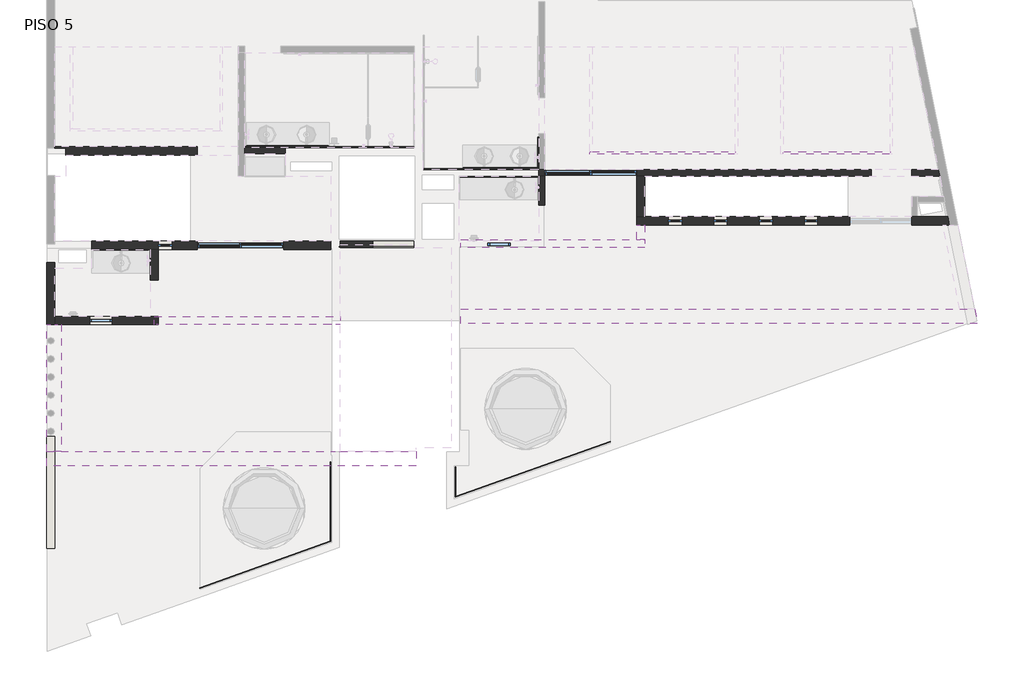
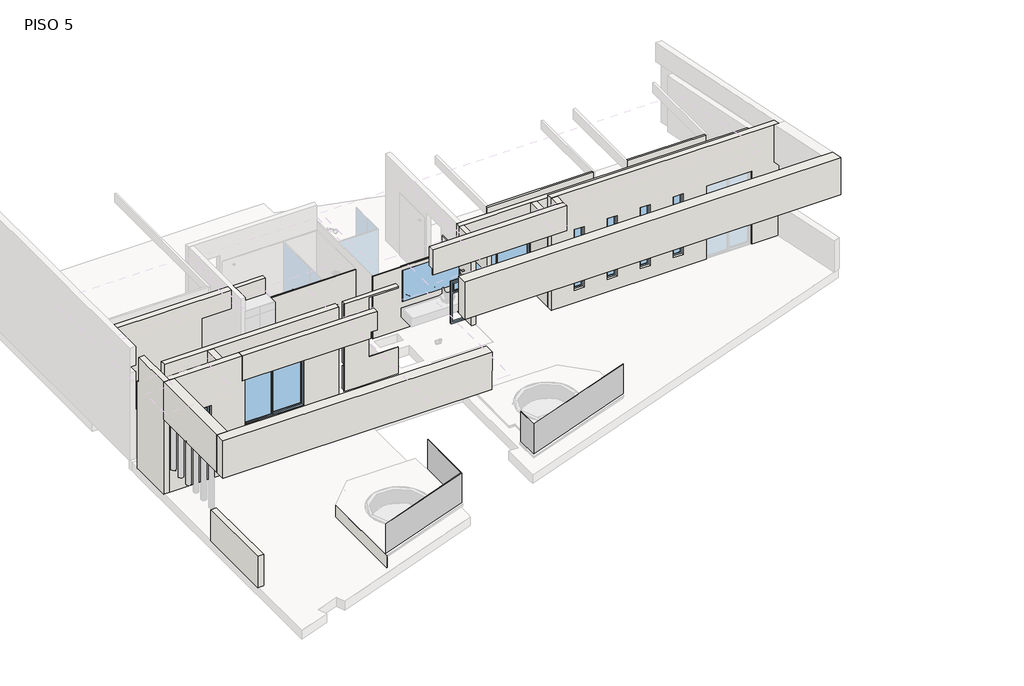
# One storey, part 1 of 3: 26 walls, 13 windows, 4 plates.
"""IFC4 building model written with IfcOpenShell, lengths in millimetres."""

import ifcopenshell
import ifcopenshell.guid

model = None  # the IFC model being written
_history = None  # IfcOwnerHistory: only IFC2X3 demands one
_inside = {}  # id of a spatial element -> (the spatial element, [elements in it])
_under = {}  # id of a project, library or spatial element -> (it, [spatial elements below it])
_declared = {}  # id of a project -> (the project, [libraries it declares])
_typed = {}  # id of a type object -> (the type object, [elements of that type])
_made_of = {}  # id of a material, layer set ... -> (it, [elements and type objects made of it])


def new_model(schema):
    """Start an empty IFC model of exactly this schema.

    Asked for "IFC4X3", IfcOpenShell would pick the latest addendum, in which some entities
    have other attributes; the version numbers below select the first issue.
    IFC2X3 requires an IfcOwnerHistory on every rooted entity: one is made here for all.
    """
    global model, _history
    if schema == "IFC4X3":
        model = ifcopenshell.file(schema_version=(4, 3, 0, 0))
    else:
        model = ifcopenshell.file(schema=schema)
    _inside.clear()
    _under.clear()
    _declared.clear()
    _typed.clear()
    _made_of.clear()
    _history = None
    if model.schema == "IFC2X3":
        org = make("IfcOrganization", Name="unknown")
        user = make(
            "IfcPersonAndOrganization",
            ThePerson=make("IfcPerson", FamilyName="unknown"),
            TheOrganization=org,
        )
        app = make(
            "IfcApplication",
            ApplicationDeveloper=org,
            Version="unknown",
            ApplicationFullName="unknown",
            ApplicationIdentifier="unknown",
        )
        _history = make(
            "IfcOwnerHistory",
            OwningUser=user,
            OwningApplication=app,
            ChangeAction="ADDED",
            CreationDate=0,
        )
    return model


def make(cls, **values):
    """One entity of the class cls with the attributes given. An attribute that is None is left unset."""
    return model.create_entity(
        cls, **{name: value for name, value in values.items() if value is not None}
    )


def rooted(cls, **values):
    """An entity with a GlobalId (a new one), such as an element, a storey or a relation."""
    return make(cls, GlobalId=ifcopenshell.guid.new(), OwnerHistory=_history, **values)


def si_unit(unit_type, name, prefix=None):
    """IfcSIUnit, for example si_unit("LENGTHUNIT", "METRE", prefix="MILLI")."""
    return make("IfcSIUnit", UnitType=unit_type, Prefix=prefix, Name=name)


def assignment(units):
    """IfcUnitAssignment: the units of a project."""
    return None if units is None else make("IfcUnitAssignment", Units=units)


def point(xyz):
    """IfcCartesianPoint."""
    return None if xyz is None else make("IfcCartesianPoint", Coordinates=xyz)


def direction(xyz):
    """IfcDirection."""
    return None if xyz is None else make("IfcDirection", DirectionRatios=xyz)


def frame(location, z_axis=None, x_axis=None):
    """IfcAxis2Placement3D, a coordinate frame: its origin and axes. An axis left out is left unset."""
    return make(
        "IfcAxis2Placement3D",
        Location=point(location),
        Axis=direction(z_axis),
        RefDirection=direction(x_axis),
    )


def origin():
    """The frame at (0, 0, 0) with its axes left unset."""
    return frame((0.0, 0.0, 0.0))


def origin_with_axes():
    """The frame at (0, 0, 0) with the z axis (0, 0, 1) and the x axis (1, 0, 0) written out."""
    return frame((0.0, 0.0, 0.0), z_axis=(0.0, 0.0, 1.0), x_axis=(1.0, 0.0, 0.0))


def place(relative_to, where):
    """IfcLocalPlacement: puts the frame where relative to a parent placement (None: the world)."""
    return make(
        "IfcLocalPlacement", PlacementRelTo=relative_to, RelativePlacement=where
    )


def context(
    kind, dimensions, precision=None, world=None, true_north=None, identifier=None
):
    """IfcGeometricRepresentationContext, for example the 3D "Model" context."""
    return make(
        "IfcGeometricRepresentationContext",
        ContextIdentifier=identifier,
        ContextType=kind,
        CoordinateSpaceDimension=dimensions,
        Precision=precision,
        WorldCoordinateSystem=world,
        TrueNorth=true_north,
    )


def project(units=None, contexts=None):
    """IfcProject with its units and contexts."""
    return rooted(
        "IfcProject",
        Name="project",
        RepresentationContexts=contexts,
        UnitsInContext=assignment(units),
    )


def spatial(cls, under=None, at=None, **own):
    """A site, building, storey or space (cls), placed at a placement, below another one or the project."""
    s = rooted(cls, ObjectPlacement=at, **own)
    if under is not None:
        _under.setdefault(under.id(), (under, []))[1].append(s)
    return s


def polyline(points):
    """IfcPolyline through the points."""
    return make("IfcPolyline", Points=[point(p) for p in points])


def outline(outer, holes=None, kind="AREA"):
    """IfcArbitraryClosedProfileDef: a profile drawn as a closed curve; with holes, ...WithVoids."""
    if holes is None:
        return make("IfcArbitraryClosedProfileDef", ProfileType=kind, OuterCurve=outer)
    return make(
        "IfcArbitraryProfileDefWithVoids",
        ProfileType=kind,
        OuterCurve=outer,
        InnerCurves=holes,
    )


def extrude(swept, where, along, depth):
    """IfcExtrudedAreaSolid: the profile swept, set in the frame where, extruded along a direction by depth."""
    return make(
        "IfcExtrudedAreaSolid",
        SweptArea=swept,
        Position=where,
        ExtrudedDirection=direction(along),
        Depth=depth,
    )


def faces_of(points, faces, orient=None, outer=None):
    """IfcFace entities. A face is a list of loops; a loop is a list of indices into points, from 0.

    orient and outer hold one flag for each loop. By default every Orientation is true, the
    first loop of a face is its IfcFaceOuterBound and the others are IfcFaceBound.
    """
    made = []
    for i, loops in enumerate(faces):
        bounds = []
        for j, loop in enumerate(loops):
            is_outer = j == 0 if outer is None else outer[i][j]
            bounds.append(
                make(
                    "IfcFaceOuterBound" if is_outer else "IfcFaceBound",
                    Bound=make("IfcPolyLoop", Polygon=[points[k] for k in loop]),
                    Orientation=True if orient is None else orient[i][j],
                )
            )
        made.append(make("IfcFace", Bounds=bounds))
    return made


def faceted_brep(points, faces, orient=None, outer=None, voids=None):
    """IfcFacetedBrep: a solid bounded by flat faces; with voids (closed shells), ...WithVoids."""
    shared = [point(p) for p in points]
    hull = make("IfcClosedShell", CfsFaces=faces_of(shared, faces, orient, outer))
    if voids is None:
        return make("IfcFacetedBrep", Outer=hull)
    return make(
        "IfcFacetedBrepWithVoids",
        Outer=hull,
        Voids=[
            make(cls, CfsFaces=faces_of(shared, fs, o, b)) for cls, fs, o, b in voids
        ],
    )


def shape(context_of_items, identifier, shape_type, items):
    """IfcShapeRepresentation: the items that make up one representation, for example the "Body"."""
    return make(
        "IfcShapeRepresentation",
        ContextOfItems=context_of_items,
        RepresentationIdentifier=identifier,
        RepresentationType=shape_type,
        Items=items,
    )


def source(mapping_origin, context_of_items, identifier, shape_type, items):
    """IfcRepresentationMap: a shape defined once, which mapped items show again and again."""
    return make(
        "IfcRepresentationMap",
        MappingOrigin=mapping_origin,
        MappedRepresentation=shape(context_of_items, identifier, shape_type, items),
    )


def transform(
    local_origin,
    x_axis=None,
    y_axis=None,
    z_axis=None,
    scale=None,
    scale2=None,
    scale3=None,
    uniform=True,
):
    """IfcCartesianTransformationOperator3D, or its non-uniform kind. x_axis, y_axis, z_axis: its Axis1, 2, 3."""
    if uniform:
        return make(
            "IfcCartesianTransformationOperator3D",
            Axis1=direction(x_axis),
            Axis2=direction(y_axis),
            LocalOrigin=point(local_origin),
            Scale=scale,
            Axis3=direction(z_axis),
        )
    return make(
        "IfcCartesianTransformationOperator3DnonUniform",
        Axis1=direction(x_axis),
        Axis2=direction(y_axis),
        LocalOrigin=point(local_origin),
        Scale=scale,
        Axis3=direction(z_axis),
        Scale2=scale2,
        Scale3=scale3,
    )


def mapped(mapping_source, mapping_target):
    """IfcMappedItem: shows the shape of a source again, moved by a transform."""
    return make(
        "IfcMappedItem", MappingSource=mapping_source, MappingTarget=mapping_target
    )


def made_of(thing, what):
    """Note that an element or type object is made of a material, layer set ...; save() writes the relation."""
    if what is not None:
        _made_of.setdefault(what.id(), (what, []))[1].append(thing)
    return thing


def element(
    cls,
    number,
    at=None,
    inside=None,
    cuts=None,
    type_object=None,
    material=None,
    context=None,
    identifier="Body",
    shape_type=None,
    held_by="IfcProductDefinitionShape",
    body=None,
    shapes=None,
    **own,
):
    """One element of the class cls, such as IfcWall. Its Tag is "e" and its number.

    at: its placement. inside: the storey or other place that contains it. cuts: it is an
    opening in that element (IfcRelVoidsElement). A single representation is given by context,
    identifier, shape_type and body (its items); several are given by shapes. held_by: the class
    of the entity that holds the representations. save() writes the other relations.
    """
    e = rooted(cls, Tag="e%d" % number, ObjectPlacement=at, **own)
    if body is not None:
        shapes = [shape(context, identifier, shape_type, body)]
    if shapes is not None:
        e.Representation = make(held_by, Representations=shapes)
    if inside is not None:
        _inside.setdefault(inside.id(), (inside, []))[1].append(e)
    if cuts is not None:
        rooted(
            "IfcRelVoidsElement", RelatingBuildingElement=cuts, RelatedOpeningElement=e
        )
    if type_object is not None:
        _typed.setdefault(type_object.id(), (type_object, []))[1].append(e)
    return made_of(e, material)


def aggregate(whole, parts):
    """IfcRelAggregates: a whole, such as a stair, and the parts it consists of."""
    return rooted("IfcRelAggregates", RelatingObject=whole, RelatedObjects=parts)


def save(model, path):
    """Write the relations noted so far, then the file.

    IfcRelAggregates (storeys below a building ...), IfcRelContainedInSpatialStructure (elements
    in a storey), IfcRelDefinesByType, IfcRelAssociatesMaterial and IfcRelDeclares: one each for
    every whole, place, type object, material and project.
    """
    for whole, parts in _under.values():
        aggregate(whole, parts)
    for where, things in _inside.values():
        rooted(
            "IfcRelContainedInSpatialStructure",
            RelatedElements=things,
            RelatingStructure=where,
        )
    for kind, things in _typed.values():
        rooted("IfcRelDefinesByType", RelatedObjects=things, RelatingType=kind)
    for what, things in _made_of.values():
        rooted("IfcRelAssociatesMaterial", RelatedObjects=things, RelatingMaterial=what)
    for by, libraries in _declared.values():
        rooted("IfcRelDeclares", RelatingContext=by, RelatedDefinitions=libraries)
    model.write(path)


def panel_del_sistema_6213fee9(model_context):
    return source(origin(), model_context, "Body", "SweptSolid", [
        extrude(outline(polyline([(1534.0319614, -5.0), (-1534.0319614, -5.0), (-1534.0319614, 5.0), (1534.0319614, 5.0), (1534.0319614, -5.0)])), origin_with_axes(), (0.0, 0.0, 1.0), 950.0),
    ])


def panel_del_sistema_d6f74f74(model_context):
    return source(origin(), model_context, "Body", "SweptSolid", [
        extrude(outline(polyline([(879.5373628, -5.0), (-879.5373628, -5.0), (-879.5373628, 5.0), (879.5373628, 5.0), (879.5373628, -5.0)])), origin_with_axes(), (0.0, 0.0, 1.0), 950.0),
    ])


def panel_del_sistema_5ee2ac6d(model_context):
    return source(origin(), model_context, "Body", "SweptSolid", [
        extrude(outline(polyline([(330.0, -5.0), (-330.0, -5.0), (-330.0, 5.0), (330.0, 5.0), (330.0, -5.0)])), origin_with_axes(), (0.0, 0.0, 1.0), 950.0),
    ])


def panel_del_sistema_3edf12d6(model_context):
    return source(origin(), model_context, "Body", "SweptSolid", [
        extrude(outline(polyline([(1810.0226196, -5.0), (-1810.0226196, -5.0), (-1810.0226196, 5.0), (1810.0226196, 5.0), (1810.0226196, -5.0)])), origin_with_axes(), (0.0, 0.0, 1.0), 950.0),
    ])


def window_504e83ce(model_context):
    return source(origin(), model_context, "Body", "SweptSolid", [
        extrude(outline(polyline([(1500.0, -210.0), (1500.0, 210.0), (1810.0, 210.0), (1810.0, -210.0), (1500.0, -210.0)]), holes=[polyline([(1770.0, -170.0), (1770.0, 170.0), (1540.0, 170.0), (1540.0, -170.0), (1770.0, -170.0)])]), frame((0.0, -25.0, 0.0), z_axis=(0.0, 1.0, 0.0), x_axis=(0.0, 0.0, 1.0)), (0.0, 0.0, 1.0), 50.0),
        extrude(outline(polyline([(210.0, -3.0), (-210.0, -3.0), (-210.0, 3.0), (210.0, 3.0), (210.0, -3.0)])), frame((0.0, 0.0, 1540.0), z_axis=(0.0, 0.0, 1.0), x_axis=(1.0, 0.0, 0.0)), (0.0, 0.0, 1.0), 270.0),
        extrude(outline(polyline([(1850.0, -250.0), (500.0, -250.0), (500.0, 250.0), (1850.0, 250.0), (1850.0, -250.0)]), holes=[polyline([(1460.0, -210.0), (1460.0, 210.0), (540.0, 210.0), (540.0, -210.0), (1460.0, -210.0)]), polyline([(1500.0, 210.0), (1500.0, -210.0), (1810.0, -210.0), (1810.0, 210.0), (1500.0, 210.0)])]), frame((0.0, -25.0, 0.0), z_axis=(0.0, 1.0, 0.0), x_axis=(0.0, 0.0, 1.0)), (0.0, 0.0, 1.0), 50.0),
    ])


def window_2ffae9cd(model_context):
    return source(origin(), model_context, "Body", "SweptSolid", [
        extrude(outline(polyline([(-20.0, -28.0), (-958.15, -28.0), (-958.15, -22.0), (-20.0, -22.0), (-20.0, -28.0)])), frame((0.0, 0.0, 55.0), z_axis=(0.0, 0.0, 1.0), x_axis=(1.0, 0.0, 0.0)), (0.0, 0.0, 1.0), 2240.0),
        extrude(outline(polyline([(15.0, -998.15), (15.0, 20.0), (2335.0, 20.0), (2335.0, -998.15), (15.0, -998.15)]), holes=[polyline([(2295.0, -958.15), (2295.0, -20.0), (55.0, -20.0), (55.0, -958.15), (2295.0, -958.15)])]), frame((0.0, -50.0, 0.0), z_axis=(0.0, 1.0, 0.0), x_axis=(0.0, 0.0, 1.0)), (0.0, 0.0, 1.0), 50.0),
        extrude(outline(polyline([(20.0, 28.0), (958.15, 28.0), (958.15, 22.0), (20.0, 22.0), (20.0, 28.0)])), frame((0.0, 0.0, 55.0), z_axis=(0.0, 0.0, 1.0), x_axis=(1.0, 0.0, 0.0)), (0.0, 0.0, 1.0), 2240.0),
        extrude(outline(polyline([(15.0, -20.0), (15.0, 998.15), (2335.0, 998.15), (2335.0, -20.0), (15.0, -20.0)]), holes=[polyline([(2295.0, 20.0), (2295.0, 958.15), (55.0, 958.15), (55.0, 20.0), (2295.0, 20.0)])]), frame((0.0, 0.0, 0.0), z_axis=(0.0, 1.0, 0.0), x_axis=(0.0, 0.0, 1.0)), (0.0, 0.0, 1.0), 50.0),
        extrude(outline(polyline([(0.0, -1013.15), (0.0, 1013.15), (2350.0, 1013.15), (2350.0, -1013.15), (0.0, -1013.15)]), holes=[polyline([(2335.0, -998.15), (2335.0, 998.15), (15.0, 998.15), (15.0, -998.15), (2335.0, -998.15)])]), frame((0.0, -50.0, 0.0), z_axis=(0.0, 1.0, 0.0), x_axis=(0.0, 0.0, 1.0)), (0.0, 0.0, 1.0), 100.0),
    ])


def window_61701810(model_context):
    return source(origin(), model_context, "Body", "SweptSolid", [
        extrude(outline(polyline([(-20.0, -28.0), (-895.0, -28.0), (-895.0, -22.0), (-20.0, -22.0), (-20.0, -28.0)])), frame((0.0, 0.0, 55.0), z_axis=(0.0, 0.0, 1.0), x_axis=(1.0, 0.0, 0.0)), (0.0, 0.0, 1.0), 2240.0),
        extrude(outline(polyline([(15.0, -935.0), (15.0, 20.0), (2335.0, 20.0), (2335.0, -935.0), (15.0, -935.0)]), holes=[polyline([(2295.0, -895.0), (2295.0, -20.0), (55.0, -20.0), (55.0, -895.0), (2295.0, -895.0)])]), frame((0.0, -50.0, 0.0), z_axis=(0.0, 1.0, 0.0), x_axis=(0.0, 0.0, 1.0)), (0.0, 0.0, 1.0), 50.0),
        extrude(outline(polyline([(20.0, 28.0), (895.0, 28.0), (895.0, 22.0), (20.0, 22.0), (20.0, 28.0)])), frame((0.0, 0.0, 55.0), z_axis=(0.0, 0.0, 1.0), x_axis=(1.0, 0.0, 0.0)), (0.0, 0.0, 1.0), 2240.0),
        extrude(outline(polyline([(15.0, -20.0), (15.0, 935.0), (2335.0, 935.0), (2335.0, -20.0), (15.0, -20.0)]), holes=[polyline([(2295.0, 20.0), (2295.0, 895.0), (55.0, 895.0), (55.0, 20.0), (2295.0, 20.0)])]), frame((0.0, 0.0, 0.0), z_axis=(0.0, 1.0, 0.0), x_axis=(0.0, 0.0, 1.0)), (0.0, 0.0, 1.0), 50.0),
        extrude(outline(polyline([(0.0, -950.0), (0.0, 950.0), (2350.0, 950.0), (2350.0, -950.0), (0.0, -950.0)]), holes=[polyline([(2335.0, -935.0), (2335.0, 935.0), (15.0, 935.0), (15.0, -935.0), (2335.0, -935.0)])]), frame((0.0, -50.0, 0.0), z_axis=(0.0, 1.0, 0.0), x_axis=(0.0, 0.0, 1.0)), (0.0, 0.0, 1.0), 100.0),
    ])


def window_c98c8cd7(model_context):
    return source(origin(), model_context, "Body", "SweptSolid", [
        extrude(outline(polyline([(-820.0, 19.0), (-820.0, 30.0), (820.0, 30.0), (820.0, 19.0), (-820.0, 19.0)])), origin_with_axes(), (0.0, 0.0, 1.0), 1000.0),
    ])


def window_ec9bc15d(model_context):
    return source(origin(), model_context, "Body", "SweptSolid", [
        extrude(outline(polyline([(-600.0, 99.0), (-600.0, 110.0), (600.0, 110.0), (600.0, 99.0), (-600.0, 99.0)])), origin_with_axes(), (0.0, 0.0, 1.0), 1000.0),
    ])


def window_0928f371(model_context):
    return source(origin(), model_context, "Body", "SweptSolid", [
        extrude(outline(polyline([(-900.0, 19.0), (-900.0, 30.0), (900.0, 30.0), (900.0, 19.0), (-900.0, 19.0)])), origin_with_axes(), (0.0, 0.0, 1.0), 1000.0),
    ])


def window_c55bceab(model_context):
    return source(origin(), model_context, "Body", "SweptSolid", [
        extrude(outline(polyline([(-850.0, 79.0), (-850.0, 90.0), (850.0, 90.0), (850.0, 79.0), (-850.0, 79.0)])), origin_with_axes(), (0.0, 0.0, 1.0), 1000.0),
    ])


def vent_alum_fija_v14_vent_alum_fija_8632f3da(model_context):
    return source(origin(), model_context, "Body", "SweptSolid", [
        extrude(outline(polyline([(800.0, -150.0), (800.0, 150.0), (2750.0, 150.0), (2750.0, -150.0), (800.0, -150.0)]), holes=[polyline([(2700.0, -100.0), (2700.0, 100.0), (850.0, 100.0), (850.0, -100.0), (2700.0, -100.0)])]), frame((0.0, -20.0, 0.0), z_axis=(0.0, 1.0, 0.0), x_axis=(0.0, 0.0, 1.0)), (0.0, 0.0, 1.0), 40.0),
        extrude(outline(polyline([(100.0, -3.0), (-100.0, -3.0), (-100.0, 3.0), (100.0, 3.0), (100.0, -3.0)])), frame((0.0, 0.0, 850.0), z_axis=(0.0, 0.0, 1.0), x_axis=(1.0, 0.0, 0.0)), (0.0, 0.0, 1.0), 1850.0),
    ])


model = new_model("IFC4")

# Units and contexts
model_context = context("Model", 3, world=origin())
ifc_project = project(units=[si_unit("LENGTHUNIT", "METRE", prefix="MILLI")], contexts=[model_context])

# Site, building, storey
site = spatial("IfcSite", under=ifc_project)
building = spatial("IfcBuilding", under=site)
storey = spatial("IfcBuildingStorey", under=building, Name="PISO 5", Elevation=15000.0)

# Plates
placement = place(None, origin())
panel_del_sistema_shape = panel_del_sistema_6213fee9(model_context)
element("IfcPlate", 1, ObjectType="Panel del sistema : Barnadal cristal", at=placement, inside=storey, context=model_context, shape_type="MappedRepresentation", body=[
    mapped(panel_del_sistema_shape, transform((38789.4828134, 22719.9973214, 15450.0), x_axis=(0.9419771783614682, 0.3356769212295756, 0.0), y_axis=(-0.3356769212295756, 0.9419771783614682, 0.0), z_axis=(0.0, 0.0, 1.0))),
])
panel_del_sistema_2_shape = panel_del_sistema_d6f74f74(model_context)
element("IfcPlate", 2, ObjectType="Panel del sistema : Barnadal cristal", at=placement, inside=storey, context=model_context, shape_type="MappedRepresentation", body=[
    mapped(panel_del_sistema_2_shape, transform((40234.5059119, 24114.4738101, 15450.0), x_axis=(0.0, 1.0, 0.0), y_axis=(-1.0, 0.0, 0.0), z_axis=(0.0, 0.0, 1.0))),
])
panel_del_sistema_3_shape = panel_del_sistema_5ee2ac6d(model_context)
element("IfcPlate", 3, ObjectType="Panel del sistema : Barnadal cristal", at=placement, inside=storey, context=model_context, shape_type="MappedRepresentation", body=[
    mapped(panel_del_sistema_3_shape, transform((42992.6275078, 24547.8028977, 15450.0), x_axis=(0.0, -1.0, 0.0), y_axis=(1.0, 0.0, 0.0), z_axis=(0.0, 0.0, 1.0))),
])
panel_del_sistema_4_shape = panel_del_sistema_3edf12d6(model_context)
element("IfcPlate", 4, ObjectType="Panel del sistema : Barnadal cristal", at=placement, inside=storey, context=model_context, shape_type="MappedRepresentation", body=[
    mapped(panel_del_sistema_4_shape, transform((44697.6275078, 24825.385718, 15450.0), x_axis=(0.9419771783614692, 0.3356769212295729, 0.0), y_axis=(-0.3356769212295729, 0.9419771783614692, 0.0), z_axis=(0.0, 0.0, 1.0))),
])

# Walls
element("IfcWall", 5, ObjectType="Muro block 18cms_ext tezon", at=placement, inside=storey, context=model_context, shape_type="Brep", body=[
    faceted_brep([(42119.5059119, 25224.0112971, 17400.0), (40444.5059119, 25224.0112971, 17400.0), (40424.5059119, 25224.0112971, 17400.0), (40254.5059119, 25224.0112971, 17400.0), (40234.5059119, 25224.0112971, 17400.0), (34283.8589874, 25224.0112971, 17400.0), (33963.8589874, 25224.0112971, 17400.0), (33963.8589874, 25224.0112971, 18600.0), (34283.8589874, 25224.0112971, 18600.0), (40234.5059119, 25224.0112971, 18600.0), (40444.5059119, 25224.0112971, 18600.0), (42129.5059119, 25224.0112971, 18600.0), (42129.5059119, 25224.0112971, 18000.0), (42119.5059119, 25224.0112971, 18000.0), (42119.5059119, 24904.0112971, 17400.0), (42119.5059119, 24904.0112971, 18000.0), (42129.5059119, 24904.0112971, 18000.0), (42129.5059119, 24904.0112971, 18600.0), (33963.8589874, 24904.0112971, 18600.0), (33963.8589874, 24904.0112971, 17400.0), (42119.5059119, 24924.0112971, 18000.0)], [[[0, 1, 2, 3, 4, 5, 6, 7, 8, 9, 10, 11, 12, 13]], [[14, 15, 16, 17, 18, 19]], [[6, 5, 4, 3, 2, 1, 0, 14, 19]], [[11, 10, 9, 8, 7, 18, 17]], [[7, 6, 19, 18]], [[12, 11, 17, 16]], [[12, 16, 15, 20, 13]], [[0, 13, 20, 15, 14]]]),
])
element("IfcWall", 6, ObjectType="Muro block 18cms_ext tezon", at=placement, inside=storey, context=model_context, shape_type="Brep", body=[
    faceted_brep([(33963.8589874, 28021.0432167, 17400.0), (33963.8589874, 25224.0112971, 17400.0), (33963.8589874, 25224.0112971, 18600.0), (33963.8589874, 28021.0432167, 18600.0), (34283.8589874, 28021.0432167, 17400.0), (34283.8589874, 28021.0432167, 18600.0), (34283.8589874, 25224.0112971, 18600.0), (34283.8589874, 25224.0112971, 17400.0), (34143.8589874, 28021.0432167, 18600.0)], [[[0, 1, 2, 3]], [[4, 5, 6, 7]], [[1, 0, 4, 7]], [[3, 2, 6, 5, 8]], [[2, 1, 7, 6]], [[0, 3, 8, 5, 4]]]),
])
element("IfcWall", 7, ObjectType="Muro block 18cms_ext tezon", at=placement, inside=storey, context=model_context, shape_type="Brep", body=[
    faceted_brep([(54447.5146377, 28363.2715476, 17400.0), (54121.1592499, 28363.2715476, 17400.0), (43109.5059119, 28363.2715476, 17400.0), (43109.5059119, 28363.2715476, 18600.0), (54121.1592499, 28363.2715476, 18600.0), (54447.5146377, 28363.2715476, 18600.0), (54511.6070647, 28043.2715476, 17400.0), (54511.6070647, 28043.2715476, 18600.0), (43109.5059119, 28043.2715476, 18600.0), (43109.5059119, 28043.2715476, 17400.0)], [[[0, 1, 2, 3, 4, 5]], [[6, 7, 8, 9]], [[2, 1, 0, 6, 9]], [[5, 4, 3, 8, 7]], [[0, 5, 7, 6]], [[3, 2, 9, 8]]]),
])
element("IfcWall", 8, ObjectType="Plafond tablaroca", at=placement, inside=storey, context=model_context, shape_type="Brep", body=[
    faceted_brep([(45958.0963639, 31844.0104694, 17720.0), (46010.7963639, 31844.0104694, 17720.0), (49170.7726708, 31844.0104694, 17720.0), (49170.7726708, 31844.0104694, 17452.7), (46010.7963639, 31844.0104694, 17452.7), (45958.0963639, 31844.0104694, 17452.7), (49170.7726708, 31791.3104694, 17720.0), (45958.0963639, 31791.3104694, 17720.0), (45958.0963639, 31791.3104694, 17452.7), (49170.7726708, 31791.3104694, 17452.7)], [[[0, 1, 2, 3, 4, 5]], [[6, 7, 8, 9]], [[2, 1, 0, 7, 6]], [[2, 6, 9, 3]], [[7, 0, 5, 8]], [[5, 4, 3, 9, 8]]]),
])
element("IfcWall", 9, ObjectType="Cerámica baño", at=placement, inside=storey, context=model_context, shape_type="Brep", body=[
    faceted_brep([(44804.5251366, 32164.0113801, 15000.0), (44804.5251366, 31464.0104755, 15000.0), (44804.5251366, 31444.0104755, 15000.0), (44804.5251366, 31444.0104755, 17000.0), (44804.5251366, 31464.0104755, 17000.0), (44804.5251366, 32164.0113801, 17000.0), (44824.5251366, 32164.0113801, 15000.0), (44824.5251366, 32164.0113801, 17000.0), (44824.5251366, 31444.0104755, 17000.0), (44824.5251366, 31444.0104755, 15000.0)], [[[0, 1, 2, 3, 4, 5]], [[6, 7, 8, 9]], [[2, 1, 0, 6, 9]], [[5, 4, 3, 8, 7]], [[0, 5, 7, 6]], [[3, 2, 9, 8]]]),
])
element("IfcWall", 10, ObjectType="Cerámica baño", at=placement, inside=storey, context=model_context, shape_type="Brep", body=[
    faceted_brep([(44804.5251366, 31464.0104755, 15000.0), (42299.5059119, 31464.0104755, 15000.0), (42279.5059119, 31464.0104755, 15000.0), (42279.5059119, 31464.0104755, 17000.0), (42299.5059119, 31464.0104755, 17000.0), (44804.5251366, 31464.0104755, 17000.0), (44804.5251366, 31444.0104755, 15000.0), (44804.5251366, 31444.0104755, 17000.0), (42279.5059119, 31444.0104755, 17000.0), (42279.5059119, 31444.0104755, 15000.0)], [[[0, 1, 2, 3, 4, 5]], [[6, 7, 8, 9]], [[2, 1, 0, 6, 9]], [[5, 4, 3, 8, 7]], [[3, 2, 9, 8]], [[0, 5, 7, 6]]]),
])
element("IfcWall", 11, ObjectType="Cerámica baño", at=placement, inside=storey, context=model_context, shape_type="Brep", body=[
    faceted_brep([(42064.5059119, 31953.9733508, 15000.0), (41084.5059119, 31953.9733508, 15000.0), (41044.5059119, 31953.9733508, 15000.0), (38354.5300269, 31953.9733508, 15000.0), (38334.5300269, 31953.9733508, 15000.0), (38334.5300269, 31953.9733508, 17000.0), (38354.5300269, 31953.9733508, 17000.0), (42064.5059119, 31953.9733508, 17000.0), (42064.5059119, 31933.9733508, 15000.0), (42064.5059119, 31933.9733508, 17000.0), (38334.5300269, 31933.9733508, 17000.0), (38334.5300269, 31933.9733508, 15000.0)], [[[0, 1, 2, 3, 4, 5, 6, 7]], [[8, 9, 10, 11]], [[4, 3, 2, 1, 0, 8, 11]], [[7, 6, 5, 10, 9]], [[5, 4, 11, 10]], [[0, 7, 9, 8]]]),
])
element("IfcWall", 12, ObjectType="Plafond tablaroca", at=placement, inside=storey, context=model_context, shape_type="SweptSolid", body=[
    extrude(outline(polyline([(50223.1917669, 31844.0104694), (52583.4450839, 31844.0104694), (52583.4450839, 31791.3104694), (50223.1917669, 31791.3104694), (50223.1917669, 31844.0104694)])), frame((0.0, 0.0, 17400.0), z_axis=(0.0, 0.0, 1.0), x_axis=(1.0, 0.0, 0.0)), (0.0, 0.0, 1.0), 320.0),
])
element("IfcWall", 13, ObjectType="DECK", at=placement, inside=storey, context=model_context, shape_type="Brep", body=[
    faceted_brep([(37374.5300226, 22183.9259514, 15000.0), (37374.5300226, 24841.0745988, 15000.0), (37374.5300226, 24869.35887, 15000.0), (37374.5300226, 24869.35887, 15380.0), (37374.5300226, 24841.0745988, 15380.0), (37374.5300226, 22183.9259514, 15380.0), (37354.5300226, 22176.7988802, 15000.0), (37354.5300226, 22176.7988802, 15380.0), (37354.5300226, 24849.35887, 15380.0), (37354.5300226, 24849.35887, 15000.0)], [[[0, 1, 2, 3, 4, 5]], [[6, 7, 8, 9]], [[2, 1, 0, 6, 9]], [[0, 5, 7, 6]], [[3, 2, 9, 8]], [[5, 4, 3, 8, 7]]]),
])
element("IfcWall", 14, ObjectType="DECK", at=placement, inside=storey, context=model_context, shape_type="Brep", body=[
    faceted_brep([(37374.5300226, 24841.0745988, 15000.0), (38163.4554238, 25630.0, 15000.0), (38183.4554238, 25650.0, 15000.0), (38183.4554238, 25650.0, 15380.0), (38163.4554238, 25630.0, 15380.0), (37374.5300226, 24841.0745988, 15380.0), (37374.5300226, 24869.35887, 15000.0), (37374.5300226, 24869.35887, 15380.0), (38155.1711525, 25650.0, 15380.0), (38155.1711525, 25650.0, 15000.0)], [[[0, 1, 2, 3, 4, 5]], [[6, 7, 8, 9]], [[2, 1, 0, 6, 9]], [[0, 5, 7, 6]], [[3, 2, 9, 8]], [[5, 4, 3, 8, 7]]]),
])
element("IfcWall", 15, ObjectType="DECK", at=placement, inside=storey, context=model_context, shape_type="SweptSolid", body=[
    extrude(outline(polyline([(40234.5059119, 25630.0), (38163.4554238, 25630.0), (38183.4554238, 25650.0), (40234.5059119, 25650.0), (40234.5059119, 25630.0)])), frame((0.0, 0.0, 15000.0), z_axis=(0.0, 0.0, 1.0), x_axis=(1.0, 0.0, 0.0)), (0.0, 0.0, 1.0), 380.0),
])
element("IfcWall", 16, ObjectType="Muro block 14cms_int", at=placement, inside=storey, context=model_context, shape_type="Brep", body=[
    faceted_brep([(39234.5300226, 31933.9733508, 15000.0), (38334.5300269, 31933.9733508, 15000.0), (38334.5300269, 31933.9733508, 17800.0), (39234.5300226, 31933.9733508, 17800.0), (39234.5300226, 31793.9733508, 15000.0), (39234.5300226, 31793.9733508, 17800.0), (38334.5300269, 31793.9733508, 17800.0), (38334.5300269, 31793.9733508, 15000.0), (39234.5300226, 31813.9733508, 17800.0)], [[[0, 1, 2, 3]], [[4, 5, 6, 7]], [[1, 0, 4, 7]], [[2, 1, 7, 6]], [[3, 2, 6, 5, 8]], [[0, 3, 8, 5, 4]]]),
])
element("IfcWall", 17, ObjectType="Muro block 14cms_int", at=placement, inside=storey, context=model_context, shape_type="Brep", body=[
    faceted_brep([(53674.9425613, 31304.0104694, 17800.0), (47170.8645778, 31304.0104694, 17800.0), (46990.8645778, 31304.0104694, 17800.0), (44964.5251366, 31304.0104694, 17800.0), (44824.5251366, 31304.0104694, 17800.0), (44824.5251366, 31304.0104694, 15000.0), (44964.5645778, 31304.0104694, 15000.0), (44964.5645778, 31304.0104694, 17350.0), (46990.8645778, 31304.0104694, 17350.0), (46990.8645778, 31304.0104694, 15000.0), (47170.8645778, 31304.0104694, 15000.0), (52165.8558202, 31304.0104694, 15000.0), (52165.8558202, 31304.0104694, 17200.0), (53065.8558202, 31304.0104694, 17200.0), (53065.8558202, 31304.0104694, 15000.0), (53674.9425613, 31304.0104694, 15000.0), (44824.5251366, 31444.0104694, 17800.0), (44964.5251366, 31444.0104694, 17800.0), (53646.9021244, 31444.0104694, 17800.0), (53646.9021244, 31444.0104694, 15000.0), (53065.8558202, 31444.0104694, 15000.0), (53065.8558202, 31444.0104694, 17200.0), (52165.8558202, 31444.0104694, 17200.0), (52165.8558202, 31444.0104694, 15000.0), (46990.8645778, 31444.0104694, 15000.0), (46990.8645778, 31444.0104694, 17350.0), (44964.5645778, 31444.0104694, 17350.0), (44964.5645778, 31444.0104694, 15000.0), (44824.5251366, 31444.0104694, 15000.0)], [[[0, 1, 2, 3, 4, 5, 6, 7, 8, 9, 10, 11, 12, 13, 14, 15]], [[16, 17, 18, 19, 20, 21, 22, 23, 24, 25, 26, 27, 28]], [[9, 24, 23, 11, 10]], [[5, 28, 27, 6]], [[19, 15, 14, 20]], [[4, 3, 2, 1, 0, 18, 17, 16]], [[5, 4, 16, 28]], [[26, 7, 6, 27]], [[7, 26, 25, 8]], [[8, 25, 24, 9]], [[15, 19, 18, 0]], [[13, 21, 20, 14]], [[21, 13, 12, 22]], [[22, 12, 11, 23]]]),
])
element("IfcWall", 18, ObjectType="Muro block 14cms_int", at=placement, inside=storey, context=model_context, shape_type="Brep", body=[
    faceted_brep([(44964.5251366, 31304.0104694, 17800.0), (44964.5251366, 29864.010184, 17800.0), (44964.5251366, 29864.010184, 17200.0), (44964.5251366, 30664.010184, 17200.0), (44964.5251366, 30664.010184, 15000.0), (44964.5251366, 31304.0104694, 15000.0), (44964.5251366, 31304.0104694, 17350.0), (44824.5251366, 29864.010184, 17800.0), (44824.5251366, 31304.0104694, 17800.0), (44824.5251366, 31304.0104694, 15000.0), (44824.5251366, 30664.010184, 15000.0), (44824.5251366, 30664.010184, 17200.0), (44824.5251366, 29864.010184, 17200.0)], [[[0, 1, 2, 3, 4, 5, 6]], [[7, 8, 9, 10, 11, 12]], [[9, 5, 4, 10]], [[11, 3, 2, 12]], [[3, 11, 10, 4]], [[1, 0, 8, 7]], [[0, 6, 5, 9, 8]], [[1, 7, 12, 2]]]),
])
element("IfcWall", 19, ObjectType="Muro block 14cms_int", at=placement, inside=storey, context=model_context, shape_type="Brep", body=[
    faceted_brep([(40444.5059119, 29724.010184, 15000.0), (42069.5059119, 29724.010184, 15000.0), (42069.5059119, 29724.010184, 15850.0), (41169.5059119, 29724.010184, 15850.0), (41169.5059119, 29724.010184, 17750.0), (42069.5059119, 29724.010184, 17750.0), (42069.5059119, 29724.010184, 17800.0), (40444.5059119, 29724.010184, 17800.0), (42069.5059119, 29864.010184, 17750.0), (41169.5059119, 29864.010184, 17750.0), (41169.5059119, 29864.010184, 15850.0), (40444.5059119, 29864.010184, 15850.0), (40444.5059119, 29864.010184, 17800.0), (42069.5059119, 29864.010184, 17800.0), (42069.5059119, 29864.010184, 15000.0), (40444.5059119, 29864.010184, 15000.0), (40444.5059119, 29864.010184, 15750.0), (42069.5059119, 29864.010184, 15750.0), (40444.5059119, 29734.010184, 15000.0), (40424.5059119, 29734.010184, 15000.0), (40424.5059119, 29744.010184, 15000.0), (40444.5059119, 29744.010184, 15000.0), (42069.5059119, 29744.010184, 15750.0), (42069.5059119, 29744.010184, 15850.0), (42069.5059119, 29744.010184, 17800.0), (40444.5059119, 29734.010184, 17800.0), (40424.5059119, 29734.010184, 17800.0), (40424.5059119, 29744.010184, 17800.0), (40444.5059119, 29744.010184, 15750.0), (40444.5059119, 29744.010184, 15850.0), (40444.5059119, 29744.010184, 17800.0), (41169.5059119, 29744.010184, 15850.0)], [[[0, 1, 2, 3, 4, 5, 6, 7]], [[8, 9, 10, 11, 12, 13]], [[14, 15, 16, 17]], [[1, 0, 18, 19, 20, 21, 15, 14]], [[1, 14, 17, 22, 23, 2]], [[5, 8, 13, 24, 6]], [[18, 0, 7, 25]], [[19, 18, 25, 26]], [[20, 19, 26, 27]], [[15, 21, 28, 16]], [[12, 11, 29, 30]], [[21, 20, 27, 30, 29, 31, 23, 22, 28]], [[5, 4, 9, 8]], [[4, 3, 31, 10, 9]], [[3, 2, 23, 31]], [[28, 22, 17, 16]], [[31, 29, 11, 10]], [[7, 6, 24, 13, 12, 30, 27, 26, 25]]]),
])
element("IfcWall", 20, ObjectType="Muro block 18cms_ext", at=placement, inside=storey, context=model_context, shape_type="Brep", body=[
    faceted_brep([(37294.5300269, 31768.9733508, 17200.0), (38194.5300269, 31768.9733508, 17200.0), (38194.5300269, 31768.9733508, 17800.0), (34383.8589874, 31768.9733508, 17800.0), (34383.8589874, 31768.9733508, 15000.0), (37294.5300269, 31768.9733508, 15000.0), (34143.8589874, 31948.9733508, 15000.0), (34143.8589874, 31948.9733508, 17800.0), (38194.5300269, 31948.9733508, 17800.0), (38194.5300269, 31948.9733508, 17200.0), (37294.5300269, 31948.9733508, 17200.0), (37294.5300269, 31948.9733508, 15000.0), (34383.8589874, 31913.9733508, 15000.0), (34143.8589874, 31913.9733508, 15000.0), (34143.8589874, 31913.9733508, 17800.0), (34383.8589874, 31913.9733508, 17800.0)], [[[0, 1, 2, 3, 4, 5]], [[6, 7, 8, 9, 10, 11]], [[6, 11, 5, 4, 12, 13]], [[7, 6, 13, 14]], [[0, 10, 9, 1]], [[10, 0, 5, 11]], [[2, 1, 9, 8]], [[2, 8, 7, 14, 15, 3]], [[15, 12, 4, 3]], [[12, 15, 14, 13]]]),
])
element("IfcWall", 21, ObjectType="Muro block 18cms_ext", at=placement, inside=storey, context=model_context, shape_type="Brep", body=[
    faceted_brep([(40234.5059119, 29684.010184, 17800.0), (36434.5300226, 29684.010184, 17800.0), (36254.5300226, 29684.010184, 17800.0), (34963.8589874, 29684.010184, 17800.0), (34963.8589874, 29684.010184, 15000.0), (36254.5300226, 29684.010184, 15000.0), (36434.5300226, 29684.010184, 15000.0), (37294.5300269, 29684.010184, 15000.0), (37294.5300269, 29684.010184, 17350.0), (39194.5300269, 29684.010184, 17350.0), (39194.5300269, 29684.010184, 15000.0), (40234.5059119, 29684.010184, 15000.0), (36434.5300226, 29684.010184, 15400.0), (36434.5300226, 29684.010184, 17350.0), (36734.5300226, 29684.010184, 17350.0), (36734.5300226, 29684.010184, 15400.0), (34963.8589874, 29864.010184, 17800.0), (40234.5059119, 29864.010184, 17800.0), (40234.5059119, 29864.010184, 15000.0), (39194.5300269, 29864.010184, 15000.0), (39194.5300269, 29864.010184, 17350.0), (37294.5300269, 29864.010184, 17350.0), (37294.5300269, 29864.010184, 15000.0), (34963.8589874, 29864.010184, 15000.0), (36434.5300226, 29864.010184, 15400.0), (36734.5300226, 29864.010184, 15400.0), (36734.5300226, 29864.010184, 17350.0), (36434.5300226, 29864.010184, 17350.0), (40234.5059119, 29744.010184, 15000.0), (40234.5059119, 29724.010184, 17800.0), (40234.5059119, 29744.010184, 17800.0), (34963.8589874, 29744.010184, 17800.0)], [[[0, 1, 2, 3, 4, 5, 6, 7, 8, 9, 10, 11], [12, 13, 14, 15]], [[16, 17, 18, 19, 20, 21, 22, 23], [24, 25, 26, 27]], [[4, 23, 22, 7, 6, 5]], [[18, 28, 11, 10, 19]], [[3, 2, 1, 0, 29, 30, 17, 16, 31]], [[21, 8, 7, 22]], [[8, 21, 20, 9]], [[9, 20, 19, 10]], [[13, 12, 24, 27]], [[14, 13, 27, 26]], [[15, 14, 26, 25]], [[12, 15, 25, 24]], [[4, 3, 31, 16, 23]], [[0, 11, 28, 18, 17, 30, 29]]]),
])
element("IfcWall", 22, ObjectType="Muro block 18cms_ext", at=placement, inside=storey, context=model_context, shape_type="Brep", body=[
    faceted_brep([(34143.8589874, 28021.0432167, 15000.0), (36434.5300226, 28021.0432167, 15000.0), (36434.5300226, 28021.0432167, 17800.0), (36344.5300226, 28021.0432167, 17800.0), (36344.5300226, 28021.0432167, 18600.0), (34283.8589874, 28021.0432167, 18600.0), (34143.8589874, 28021.0432167, 18600.0), (34914.5300226, 28021.0432167, 16000.0), (34914.5300226, 28021.0432167, 17350.0), (35414.5300226, 28021.0432167, 17350.0), (35414.5300226, 28021.0432167, 16000.0), (36434.5300226, 28201.0432167, 15000.0), (34143.8589874, 28201.0432167, 15000.0), (34143.8589874, 28201.0432167, 17800.0), (36254.5300226, 28201.0432167, 17800.0), (36434.5300226, 28201.0432167, 17800.0), (36434.5300226, 28201.0432167, 17200.0), (34914.5300226, 28201.0432167, 17350.0), (34914.5300226, 28201.0432167, 16000.0), (35414.5300226, 28201.0432167, 16000.0), (35414.5300226, 28201.0432167, 17350.0), (34143.8589874, 28201.0432167, 18600.0), (36344.5300226, 28201.0432167, 18600.0), (36344.5300226, 28201.0432167, 18000.0), (34143.8589874, 28201.0432167, 18000.0), (36344.5300226, 28041.0432167, 18000.0), (34143.8589874, 28041.0432167, 18000.0), (36344.5300226, 28041.0432167, 17800.0), (34143.8589874, 28041.0432167, 17800.0)], [[[0, 1, 2, 3, 4, 5, 6], [7, 8, 9, 10]], [[11, 12, 13, 14, 15, 16], [17, 18, 19, 20]], [[21, 22, 23, 24]], [[1, 0, 12, 11]], [[6, 5, 4, 22, 21]], [[25, 26, 24, 23]], [[27, 28, 26, 25]], [[3, 2, 15, 14, 13, 28, 27]], [[15, 2, 1, 11, 16]], [[8, 7, 18, 17]], [[9, 8, 17, 20]], [[10, 9, 20, 19]], [[7, 10, 19, 18]], [[6, 21, 24, 26, 28, 13, 12, 0]], [[22, 4, 3, 27, 25, 23]]]),
])
element("IfcWall", 23, ObjectType="Muro block 18cms_ext", at=placement, inside=storey, context=model_context, shape_type="Brep", body=[
    faceted_brep([(36254.5300226, 29684.010184, 17800.0), (36254.5300226, 29684.010184, 15000.0), (36254.5300226, 29001.0432167, 15000.0), (36254.5300226, 29001.0432167, 17200.0), (36254.5300226, 28201.0432167, 17200.0), (36254.5300226, 28201.0432167, 17800.0), (36434.5300226, 29684.010184, 15000.0), (36434.5300226, 29684.010184, 15400.0), (36434.5300226, 29684.010184, 17350.0), (36434.5300226, 29684.010184, 17800.0), (36434.5300226, 28201.0432167, 17800.0), (36434.5300226, 28201.0432167, 17200.0), (36434.5300226, 29001.0432167, 17200.0), (36434.5300226, 29001.0432167, 15000.0)], [[[0, 1, 2, 3, 4, 5]], [[6, 7, 8, 9, 10, 11, 12, 13]], [[1, 6, 13, 2]], [[1, 0, 9, 8, 7, 6]], [[3, 12, 11, 4]], [[12, 3, 2, 13]], [[0, 5, 10, 9]], [[10, 5, 4, 11]]]),
])
element("IfcWall", 24, ObjectType="Muro block 18cms_ext", at=placement, inside=storey, context=model_context, shape_type="Brep", body=[
    faceted_brep([(33963.8589874, 29394.010184, 15000.0), (33963.8589874, 29274.010184, 15000.0), (33963.8589874, 28021.0432167, 15000.0), (33963.8589874, 28021.0432167, 16000.0), (33963.8589874, 28021.0432167, 17400.0), (33963.8589874, 28021.0432167, 18600.0), (33963.8589874, 29334.010184, 18600.0), (33963.8589874, 29334.010184, 17800.0), (33963.8589874, 29394.010184, 17800.0), (34143.8589874, 28021.0432167, 15000.0), (34143.8589874, 28201.0432167, 15000.0), (34143.8589874, 29274.010184, 15000.0), (34143.8589874, 29394.010184, 15000.0), (34143.8589874, 29394.010184, 17800.0), (34143.8589874, 29274.010184, 17800.0), (34143.8589874, 28201.0432167, 17800.0), (34143.8589874, 28041.0432167, 17800.0), (34143.8589874, 28041.0432167, 18000.0), (34143.8589874, 28201.0432167, 18000.0), (34143.8589874, 29334.010184, 18000.0), (34143.8589874, 29334.010184, 18600.0), (34143.8589874, 28201.0432167, 18600.0), (34143.8589874, 28021.0432167, 18600.0), (34143.8589874, 28021.0432167, 16000.0), (33983.8589874, 28021.0432167, 15000.0), (34123.8589874, 29334.010184, 18600.0), (34123.8589874, 29334.010184, 18000.0), (33983.8589874, 29334.010184, 18000.0), (33983.8589874, 29334.010184, 17800.0), (33983.8589874, 29394.010184, 17800.0), (34123.8589874, 29394.010184, 17800.0), (33983.8589874, 28041.0432167, 17800.0), (33983.8589874, 28041.0432167, 18000.0)], [[[0, 1, 2, 3, 4, 5, 6, 7, 8]], [[9, 10, 11, 12, 13, 14, 15, 16, 17, 18, 19, 20, 21, 22, 23]], [[2, 1, 0, 12, 11, 10, 9, 24]], [[6, 5, 22, 21, 20, 25]], [[6, 25, 20, 19, 26, 27, 28, 7]], [[12, 0, 8, 29, 30, 13]], [[2, 24, 9, 23, 22, 5, 4, 3]], [[8, 7, 28, 31, 16, 15, 14, 13, 30, 29]], [[32, 27, 26, 19, 18, 17]], [[32, 31, 28, 27]], [[31, 32, 17, 16]]]),
])
element("IfcWall", 25, ObjectType="Muro block 18cms_ext", at=placement, inside=storey, context=model_context, shape_type="Brep", body=[
    faceted_brep([(46990.8645778, 30404.0104696, 18600.0), (53855.2025121, 30404.0104696, 18600.0), (53855.2025121, 30404.0104696, 18000.0), (46990.8645778, 30404.0104696, 18000.0), (51690.8558202, 30404.0104696, 15000.0), (47170.8645778, 30404.0104696, 15000.0), (46990.8645778, 30404.0104696, 15000.0), (46990.8645778, 30404.0104696, 17800.0), (47170.8645778, 30404.0104696, 17800.0), (53065.8558202, 30404.0104696, 17800.0), (53185.8558202, 30404.0104696, 17800.0), (53855.2025121, 30404.0104696, 17800.0), (53855.2025121, 30404.0104696, 15000.0), (53185.8558202, 30404.0104696, 15000.0), (53065.8558202, 30404.0104696, 15000.0), (53065.8558202, 30404.0104696, 17350.0), (51690.8558202, 30404.0104696, 17350.0), (47690.8645778, 30404.0104696, 17350.0), (47690.8645778, 30404.0104696, 15400.0), (47990.8645778, 30404.0104696, 15400.0), (47990.8645778, 30404.0104696, 17350.0), (48690.8645778, 30404.0104696, 17350.0), (48690.8645778, 30404.0104696, 15400.0), (48990.8645778, 30404.0104696, 15400.0), (48990.8645778, 30404.0104696, 17350.0), (49690.8645778, 30404.0104696, 17350.0), (49690.8645778, 30404.0104696, 15400.0), (49990.8645778, 30404.0104696, 15400.0), (49990.8645778, 30404.0104696, 17350.0), (50690.8645778, 30404.0104696, 17350.0), (50690.8645778, 30404.0104696, 15400.0), (50990.8645778, 30404.0104696, 15400.0), (50990.8645778, 30404.0104696, 17350.0), (53891.2545023, 30224.0104696, 18600.0), (53748.4740201, 30224.0104696, 18600.0), (47170.8645778, 30224.0104696, 18600.0), (46990.8645778, 30224.0104696, 18600.0), (46990.8645778, 30224.0104696, 18000.0), (47150.8645778, 30224.0104696, 18000.0), (47150.8645778, 30224.0104696, 17800.0), (46990.8645778, 30224.0104696, 17800.0), (46990.8645778, 30224.0104696, 15000.0), (51690.8558202, 30224.0104696, 15000.0), (51690.8558202, 30224.0104696, 17350.0), (53065.8558202, 30224.0104696, 17350.0), (53065.8558202, 30224.0104696, 15000.0), (53891.2545023, 30224.0104696, 15000.0), (47690.8645778, 30224.0104696, 15400.0), (47690.8645778, 30224.0104696, 17350.0), (47990.8645778, 30224.0104696, 17350.0), (47990.8645778, 30224.0104696, 15400.0), (48690.8645778, 30224.0104696, 15400.0), (48690.8645778, 30224.0104696, 17350.0), (48990.8645778, 30224.0104696, 17350.0), (48990.8645778, 30224.0104696, 15400.0), (49690.8645778, 30224.0104696, 15400.0), (49690.8645778, 30224.0104696, 17350.0), (49990.8645778, 30224.0104696, 17350.0), (49990.8645778, 30224.0104696, 15400.0), (50690.8645778, 30224.0104696, 15400.0), (50690.8645778, 30224.0104696, 17350.0), (50990.8645778, 30224.0104696, 17350.0), (50990.8645778, 30224.0104696, 15400.0), (47150.8645778, 30244.0104696, 17800.0), (53887.2487256, 30244.0104696, 17800.0), (53887.2487256, 30244.0104696, 18000.0), (47150.8645778, 30244.0104696, 18000.0)], [[[0, 1, 2, 3]], [[4, 5, 6, 7, 8, 9, 10, 11, 12, 13, 14, 15, 16], [17, 18, 19, 20], [21, 22, 23, 24], [25, 26, 27, 28], [29, 30, 31, 32]], [[33, 34, 35, 36, 37, 38, 39, 40, 41, 42, 43, 44, 45, 46], [47, 48, 49, 50], [51, 52, 53, 54], [55, 56, 57, 58], [59, 60, 61, 62]], [[41, 6, 5, 4, 42]], [[12, 46, 45, 14, 13]], [[1, 0, 36, 35, 34, 33]], [[39, 63, 64, 11, 10, 9, 8, 7, 40]], [[65, 66, 38, 37, 3, 2]], [[63, 66, 65, 64]], [[6, 41, 40, 7]], [[36, 0, 3, 37]], [[66, 63, 39, 38]], [[48, 47, 18, 17]], [[49, 48, 17, 20]], [[50, 49, 20, 19]], [[47, 50, 19, 18]], [[52, 51, 22, 21]], [[53, 52, 21, 24]], [[54, 53, 24, 23]], [[51, 54, 23, 22]], [[56, 55, 26, 25]], [[57, 56, 25, 28]], [[58, 57, 28, 27]], [[55, 58, 27, 26]], [[60, 59, 30, 29]], [[61, 60, 29, 32]], [[62, 61, 32, 31]], [[59, 62, 31, 30]], [[16, 43, 42, 4]], [[43, 16, 15, 44]], [[44, 15, 14, 45]], [[1, 33, 46, 12, 11, 64, 65, 2]]]),
])
element("IfcWall", 26, ObjectType="Muro block 18cms_ext", at=placement, inside=storey, context=model_context, shape_type="Brep", body=[
    faceted_brep([(47170.8645778, 30404.0104696, 15000.0), (47170.8645778, 31304.0104694, 15000.0), (47170.8645778, 31304.0104694, 17800.0), (47170.8645778, 30404.0104696, 17800.0), (46990.8645778, 30404.0104696, 15000.0), (46990.8645778, 30404.0104696, 17800.0), (46990.8645778, 31304.0104694, 17800.0), (46990.8645778, 31304.0104694, 17350.0), (46990.8645778, 31304.0104694, 15000.0)], [[[0, 1, 2, 3]], [[4, 5, 6, 7, 8]], [[1, 0, 4, 8]], [[0, 3, 5, 4]], [[2, 1, 8, 7, 6]], [[3, 2, 6, 5]]]),
])
element("IfcWall", 27, ObjectType="Muro block 18cms_ext", at=placement, inside=storey, context=model_context, shape_type="Brep", body=[
    faceted_brep([(43109.5059119, 29724.010184, 17800.0), (47170.8645778, 29724.010184, 17800.0), (47170.8645778, 29724.010184, 18600.0), (43109.5059119, 29724.010184, 18600.0), (43109.5059119, 29904.010184, 18600.0), (46990.8645778, 29904.010184, 18600.0), (47170.8645778, 29904.010184, 18600.0), (47170.8645778, 29904.010184, 17800.0), (47150.8645778, 29904.010184, 17800.0), (47150.8645778, 29904.010184, 18000.0), (46990.8645778, 29904.010184, 18000.0), (43109.5059119, 29904.010184, 18000.0), (43109.5059119, 29739.010184, 17800.0), (47150.8645778, 29739.010184, 17800.0), (47150.8645778, 29739.010184, 18000.0), (43109.5059119, 29739.010184, 18000.0)], [[[0, 1, 2, 3]], [[4, 5, 6, 7, 8, 9, 10, 11]], [[1, 0, 12, 13, 8, 7]], [[3, 2, 6, 5, 4]], [[1, 7, 6, 2]], [[9, 14, 15, 11, 10]], [[14, 13, 12, 15]], [[13, 14, 9, 8]], [[0, 3, 4, 11, 15, 12]]]),
])
element("IfcWall", 28, ObjectType="Muro block 18cms_ext", at=placement, inside=storey, context=model_context, shape_type="SweptSolid", body=[
    extrude(outline(polyline([(18600.0, 47170.8645778), (18600.0, 46990.8645778), (18000.0, 46990.8645778), (18000.0, 47150.8645778), (17800.0, 47150.8645778), (17800.0, 47170.8645778), (18600.0, 47170.8645778)])), frame((0.0, 29904.010184, 0.0), z_axis=(0.0, 1.0, 0.0), x_axis=(0.0, 0.0, 1.0)), (0.0, 0.0, 1.0), 320.0002856),
])
element("IfcWall", 29, ObjectType="Muro block 18cms_ext", at=placement, inside=storey, context=model_context, shape_type="Brep", body=[
    faceted_brep([(40254.5059119, 28021.0432167, 18000.0), (40444.5059119, 28021.0432167, 18000.0), (40444.5059119, 28021.0432167, 18600.0), (40234.5059119, 28021.0432167, 18600.0), (36344.5300226, 28021.0432167, 18600.0), (36344.5300226, 28021.0432167, 17800.0), (36434.5300226, 28021.0432167, 17800.0), (40254.5059119, 28021.0432167, 17800.0), (40444.5059119, 28201.0432167, 18600.0), (40444.5059119, 28201.0432167, 18000.0), (36344.5300226, 28201.0432167, 18000.0), (36344.5300226, 28201.0432167, 18600.0), (40254.5059119, 28041.0432167, 17800.0), (36344.5300226, 28041.0432167, 17800.0), (36434.5300226, 28041.0432167, 17800.0), (40254.5059119, 28041.0432167, 18000.0), (36344.5300226, 28041.0432167, 18000.0)], [[[0, 1, 2, 3, 4, 5, 6, 7]], [[8, 9, 10, 11]], [[12, 7, 6, 5, 13, 14]], [[2, 8, 11, 4, 3]], [[0, 15, 16, 10, 9, 1]], [[15, 12, 14, 13, 16]], [[12, 15, 0, 7]], [[8, 2, 1, 9]], [[5, 4, 11, 10, 16, 13]]]),
])
element("IfcWall", 30, ObjectType="Muro block 18cms_ext", at=placement, inside=storey, context=model_context, shape_type="Brep", body=[
    faceted_brep([(34143.8589874, 23080.9402233, 15000.0), (34143.8589874, 25552.4819737, 15000.0), (34143.8589874, 25552.4819737, 16000.0), (34143.8589874, 23080.9402233, 16000.0), (33963.8589874, 23080.9402233, 15000.0), (33963.8589874, 23080.9402233, 16000.0), (33963.8589874, 25552.4819737, 16000.0), (33963.8589874, 25552.4819737, 15000.0), (33983.8589874, 25552.4819737, 15000.0)], [[[0, 1, 2, 3]], [[4, 5, 6, 7]], [[1, 0, 4, 7, 8]], [[2, 1, 8, 7, 6]], [[3, 2, 6, 5]], [[0, 3, 5, 4]]]),
])

# Windows
window_shape = window_504e83ce(model_context)
element("IfcWindow", 31, ObjectType="VENT_ALUM_PROY_ARRIBA : V10-VENT_ALUM_PROY_ARRIBA BAÑO", at=placement, inside=storey, context=model_context, shape_type="MappedRepresentation", body=[
    mapped(window_shape, transform((43952.6275078, 29794.010184, 15500.0), x_axis=(1.0, 0.0, 0.0), y_axis=(0.0, 1.0, 0.0), z_axis=(0.0, 0.0, 1.0))),
])
element("IfcWindow", 32, ObjectType="VENT_ALUM_PROY_ARRIBA : V10-VENT_ALUM_PROY_ARRIBA BAÑO", at=placement, inside=storey, context=model_context, shape_type="MappedRepresentation", body=[
    mapped(window_shape, transform((35164.5300226, 28111.0432167, 15500.0), x_axis=(1.0, 0.0, 0.0), y_axis=(0.0, 1.0, 0.0), z_axis=(0.0, 0.0, 1.0))),
])
window_2_shape = window_2ffae9cd(model_context)
element("IfcWindow", 33, ObjectType="VENT_ALUM_CORR_2HOJAS_CORRE 1 : V17-VENT_ALUM_CORR_2HOJAS_CORRE 2 - SALIDA REC PH 2", at=placement, inside=storey, context=model_context, shape_type="MappedRepresentation", body=[
    mapped(window_2_shape, transform((45977.7145778, 31374.0104694, 15000.0), x_axis=(1.0, 0.0, 0.0), y_axis=(0.0, 1.0, 0.0), z_axis=(0.0, 0.0, 1.0))),
])
window_3_shape = window_61701810(model_context)
element("IfcWindow", 34, ObjectType="VENT_ALUM_CORR_2HOJAS_CORRE 1 : V13-VENT_ALUM_CORR_2HOJAS_CORRE 2 - SALIDA PH 2", at=placement, inside=storey, context=model_context, shape_type="MappedRepresentation", body=[
    mapped(window_3_shape, transform((38244.5300269, 29774.010184, 15000.0), x_axis=(1.0, 0.0, 0.0), y_axis=(0.0, 1.0, 0.0), z_axis=(0.0, 0.0, 1.0))),
])
window_4_shape = window_c98c8cd7(model_context)
element("IfcWindow", 35, ObjectType="espejo biselado sin marco : ESP9-espejo biselado 164 x 101", at=placement, inside=storey, context=model_context, shape_type="MappedRepresentation", body=[
    mapped(window_4_shape, transform((43979.5251366, 31454.0104755, 16000.0), x_axis=(1.0, 0.0, 0.0), y_axis=(0.0, 1.0, 0.0), z_axis=(0.0, 0.0, 1.0))),
])
window_5_shape = window_ec9bc15d(model_context)
element("IfcWindow", 36, ObjectType="espejo biselado sin marco : ESP6-espejo biselado 120 x 100", at=placement, inside=storey, context=model_context, shape_type="MappedRepresentation", body=[
    mapped(window_5_shape, transform((35609.194505, 29774.010184, 16000.0), x_axis=(-1.0, 0.0, 0.0), y_axis=(0.0, -1.0, 0.0), z_axis=(0.0, 0.0, 1.0))),
])
window_6_shape = window_0928f371(model_context)
element("IfcWindow", 37, ObjectType="espejo biselado sin marco : ESP12espejo biselado 180 x 100", at=placement, inside=storey, context=model_context, shape_type="MappedRepresentation", body=[
    mapped(window_6_shape, transform((39279.5300269, 31943.9733508, 16000.0), x_axis=(1.0, 0.0, 0.0), y_axis=(0.0, 1.0, 0.0), z_axis=(0.0, 0.0, 1.0))),
])
window_7_shape = window_c55bceab(model_context)
element("IfcWindow", 38, ObjectType="espejo biselado sin marco : ESP10-espejo biselado 170 x 100", at=placement, inside=storey, context=model_context, shape_type="MappedRepresentation", body=[
    mapped(window_7_shape, transform((43949.5155243, 31374.0104755, 16000.0), x_axis=(-1.0, 0.0, 0.0), y_axis=(0.0, -1.0, 0.0), z_axis=(0.0, 0.0, 1.0))),
])
vent_alum_fija_v14_vent_alum_fija_shape = vent_alum_fija_v14_vent_alum_fija_8632f3da(model_context)
element("IfcWindow", 39, ObjectType="VENT_ALUM_FIJA : V14-VENT_ALUM_FIJA", at=placement, inside=storey, context=model_context, shape_type="MappedRepresentation", body=[
    mapped(vent_alum_fija_v14_vent_alum_fija_shape, transform((47840.8645778, 30314.0104696, 14600.0), x_axis=(1.0, 0.0, 0.0), y_axis=(0.0, 1.0, 0.0), z_axis=(0.0, 0.0, 1.0))),
])
element("IfcWindow", 40, ObjectType="VENT_ALUM_FIJA : V14-VENT_ALUM_FIJA", at=placement, inside=storey, context=model_context, shape_type="MappedRepresentation", body=[
    mapped(vent_alum_fija_v14_vent_alum_fija_shape, transform((48840.8645778, 30314.0104696, 14600.0), x_axis=(1.0, 0.0, 0.0), y_axis=(0.0, 1.0, 0.0), z_axis=(0.0, 0.0, 1.0))),
])
element("IfcWindow", 41, ObjectType="VENT_ALUM_FIJA : V14-VENT_ALUM_FIJA", at=placement, inside=storey, context=model_context, shape_type="MappedRepresentation", body=[
    mapped(vent_alum_fija_v14_vent_alum_fija_shape, transform((49840.8645778, 30314.0104696, 14600.0), x_axis=(1.0, 0.0, 0.0), y_axis=(0.0, 1.0, 0.0), z_axis=(0.0, 0.0, 1.0))),
])
element("IfcWindow", 42, ObjectType="VENT_ALUM_FIJA : V14-VENT_ALUM_FIJA", at=placement, inside=storey, context=model_context, shape_type="MappedRepresentation", body=[
    mapped(vent_alum_fija_v14_vent_alum_fija_shape, transform((50840.8645778, 30314.0104696, 14600.0), x_axis=(1.0, 0.0, 0.0), y_axis=(0.0, 1.0, 0.0), z_axis=(0.0, 0.0, 1.0))),
])
element("IfcWindow", 43, ObjectType="VENT_ALUM_FIJA : V14-VENT_ALUM_FIJA", at=placement, inside=storey, context=model_context, shape_type="MappedRepresentation", body=[
    mapped(vent_alum_fija_v14_vent_alum_fija_shape, transform((36584.5300226, 29774.010184, 14600.0), x_axis=(1.0, 0.0, 0.0), y_axis=(0.0, 1.0, 0.0), z_axis=(0.0, 0.0, 1.0))),
])

save(model, "model.ifc")
